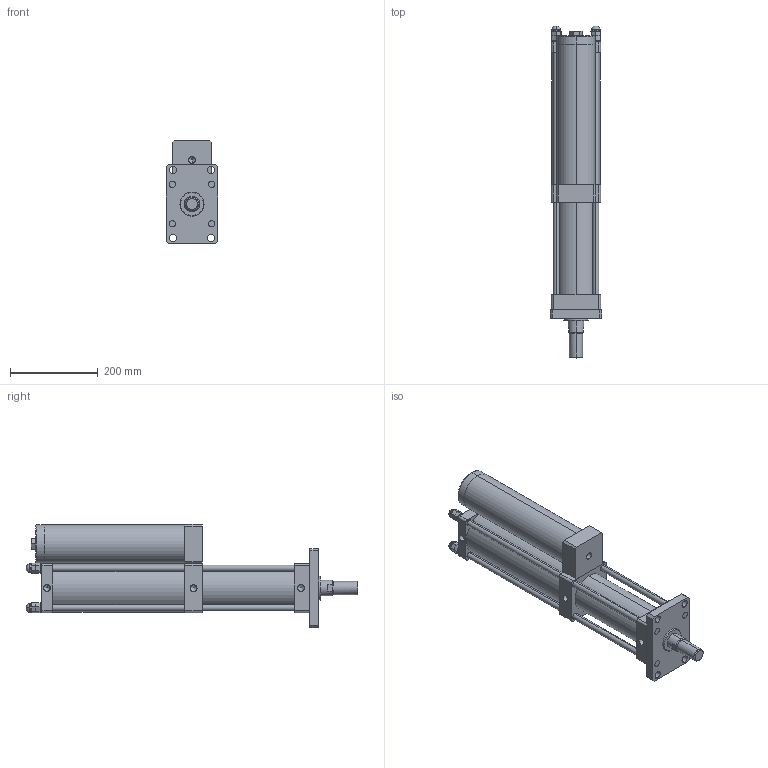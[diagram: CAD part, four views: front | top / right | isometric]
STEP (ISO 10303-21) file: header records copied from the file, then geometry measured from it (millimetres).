
FILE_DESCRIPTION (( 'STEP AP203' ), '1' );
FILE_NAME ('MPT-80-150-15-8T.STEP', '2016-03-11T03:36:01', ( 'WIN' ), ( '' ), 'SwSTEP 2.0', 'SolidWorks 2014', '' );
FILE_SCHEMA (( 'CONFIG_CONTROL_DESIGN' ));
Length unit declared in the file: millimetre
Products named in the file (1): MPT-80-150-15-8T
Bounding box: 118 x 757.01 x 235 mm (x, y, z)
Volume: 6924726.1 mm3; surface area: 763906.5 mm2
Topology: 20 solids, 20 shells, 400 faces, 968 edges, 562 vertices
Faces by surface type: plane 187, cylinder 90, torus 48, bspline 48, cone 27
Entity records: 12732 total; most frequent: CARTESIAN_POINT 3707, DIRECTION 1901, ORIENTED_EDGE 1804, EDGE_CURVE 902, AXIS2_PLACEMENT_3D 700, VERTEX_POINT 562, VECTOR 501, LINE 501
